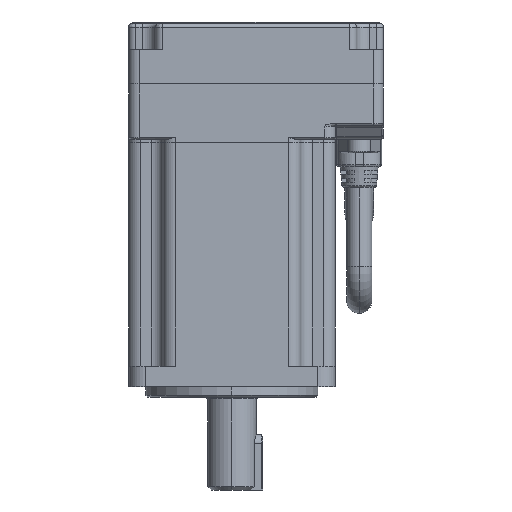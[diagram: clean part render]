
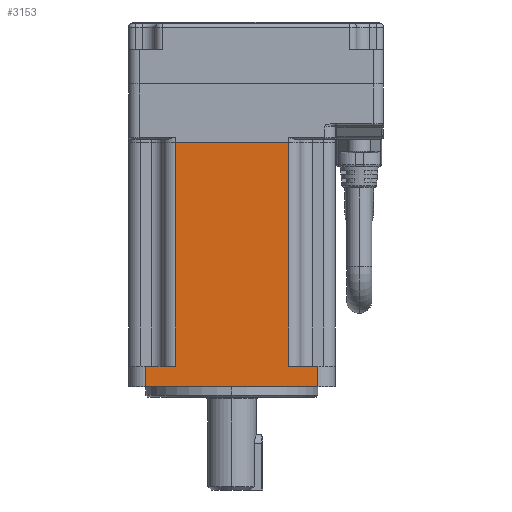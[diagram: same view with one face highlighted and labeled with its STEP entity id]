
A CAD part, left-side view. The second image highlights one B-rep face of the part: STEP entity #3153.
In plain terms, the highlighted planar face has unit normal (-1, 0, 0).
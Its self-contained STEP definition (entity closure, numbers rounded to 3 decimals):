
#663=DIRECTION('',(0.,-1.,0.));
#664=VECTOR('',#663,33.);
#665=CARTESIAN_POINT('',(-30.,115.245,157.728));
#666=LINE('',#665,#664);
#667=DIRECTION('',(0.,-1.,0.));
#668=VECTOR('',#667,50.);
#669=CARTESIAN_POINT('',(-30.,123.745,86.728));
#670=LINE('',#669,#668);
#698=DIRECTION('',(0.,-1.,0.));
#699=VECTOR('',#698,8.5);
#700=CARTESIAN_POINT('',(-30.,123.745,92.728));
#701=LINE('',#700,#699);
#849=DIRECTION('',(0.,-1.,0.));
#850=VECTOR('',#849,8.5);
#851=CARTESIAN_POINT('',(-30.,82.245,92.728));
#852=LINE('',#851,#850);
#895=DIRECTION('',(0.,0.,-1.));
#896=VECTOR('',#895,65.);
#897=CARTESIAN_POINT('',(-30.,82.245,157.728));
#898=LINE('',#897,#896);
#946=DIRECTION('',(0.,0.,-1.));
#947=VECTOR('',#946,6.);
#948=CARTESIAN_POINT('',(-30.,73.745,92.728));
#949=LINE('',#948,#947);
#1111=DIRECTION('',(0.,0.,1.));
#1112=VECTOR('',#1111,65.);
#1113=CARTESIAN_POINT('',(-30.,115.245,92.728));
#1114=LINE('',#1113,#1112);
#1115=DIRECTION('',(0.,0.,1.));
#1116=VECTOR('',#1115,6.);
#1117=CARTESIAN_POINT('',(-30.,123.745,86.728));
#1118=LINE('',#1117,#1116);
#2129=CARTESIAN_POINT('',(-30.,82.245,157.728));
#2130=CARTESIAN_POINT('',(-30.,82.245,92.728));
#2131=VERTEX_POINT('',#2129);
#2132=VERTEX_POINT('',#2130);
#2201=CARTESIAN_POINT('',(-30.,115.245,157.728));
#2202=VERTEX_POINT('',#2201);
#2370=CARTESIAN_POINT('',(-30.,73.745,86.728));
#2372=VERTEX_POINT('',#2370);
#2387=CARTESIAN_POINT('',(-30.,123.745,92.728));
#2388=CARTESIAN_POINT('',(-30.,115.245,92.728));
#2389=VERTEX_POINT('',#2387);
#2390=VERTEX_POINT('',#2388);
#2461=CARTESIAN_POINT('',(-30.,73.745,92.728));
#2462=VERTEX_POINT('',#2461);
#2465=CARTESIAN_POINT('',(-30.,123.745,86.728));
#2466=VERTEX_POINT('',#2465);
#3131=CARTESIAN_POINT('',(-30.,68.745,157.728));
#3132=DIRECTION('',(1.,0.,0.));
#3133=DIRECTION('',(0.,0.,1.));
#3134=AXIS2_PLACEMENT_3D('',#3131,#3132,#3133);
#3135=PLANE('',#3134);
#3137=ORIENTED_EDGE('',*,*,#3136,.T.);
#3139=ORIENTED_EDGE('',*,*,#3138,.T.);
#3141=ORIENTED_EDGE('',*,*,#3140,.T.);
#3143=ORIENTED_EDGE('',*,*,#3142,.T.);
#3145=ORIENTED_EDGE('',*,*,#3144,.T.);
#3147=ORIENTED_EDGE('',*,*,#3146,.T.);
#3148=ORIENTED_EDGE('',*,*,#3083,.F.);
#3150=ORIENTED_EDGE('',*,*,#3149,.T.);
#3151=EDGE_LOOP('',(#3137,#3139,#3141,#3143,#3145,#3147,#3148,#3150));
#3152=FACE_OUTER_BOUND('',#3151,.F.);
#3153=ADVANCED_FACE('',(#3152),#3135,.F.);
#3083=EDGE_CURVE('',#2466,#2372,#670,.T.);
#3136=EDGE_CURVE('',#2389,#2390,#701,.T.);
#3138=EDGE_CURVE('',#2390,#2202,#1114,.T.);
#3140=EDGE_CURVE('',#2202,#2131,#666,.T.);
#3142=EDGE_CURVE('',#2131,#2132,#898,.T.);
#3144=EDGE_CURVE('',#2132,#2462,#852,.T.);
#3146=EDGE_CURVE('',#2462,#2372,#949,.T.);
#3149=EDGE_CURVE('',#2466,#2389,#1118,.T.);
